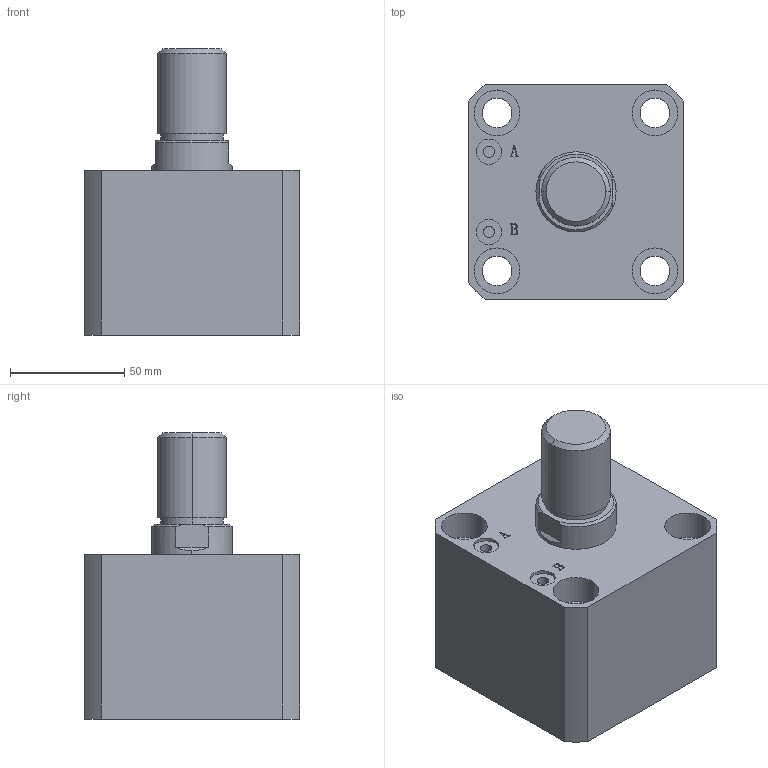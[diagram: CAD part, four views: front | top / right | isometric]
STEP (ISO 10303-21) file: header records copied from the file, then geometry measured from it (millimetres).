
FILE_DESCRIPTION (( 'STEP AP203' ), '1' );
FILE_NAME ('HTB-SDMA63-5W.STEP', '2019-10-08T01:00:54', ( '微软用户' ), ( '微软中国' ), 'SwSTEP 2.0', 'SolidWorks 2012', '' );
FILE_SCHEMA (( 'CONFIG_CONTROL_DESIGN' ));
Length unit declared in the file: millimetre
Products named in the file (3): HTB-SDMA63-5W; HTB-SDMA63-5W活塞杆; HTB-SDMA63-5掛极
Assembly tree (2 placements, depth 2):
  HTB-SDMA63-5W
    HTB-SDMA63-5掛极
    HTB-SDMA63-5W活塞杆
Bounding box: 94 x 94 x 125 mm (x, y, z)
Volume: 599871.1 mm3; surface area: 88493.8 mm2
Topology: 2 solids, 2 shells, 141 faces, 337 edges, 222 vertices
Faces by surface type: plane 67, cylinder 48, bspline 16, torus 6, cone 4
Entity records: 5176 total; most frequent: CARTESIAN_POINT 1593, ORIENTED_EDGE 674, DIRECTION 669, EDGE_CURVE 337, AXIS2_PLACEMENT_3D 242, VERTEX_POINT 222, VECTOR 185, LINE 185
